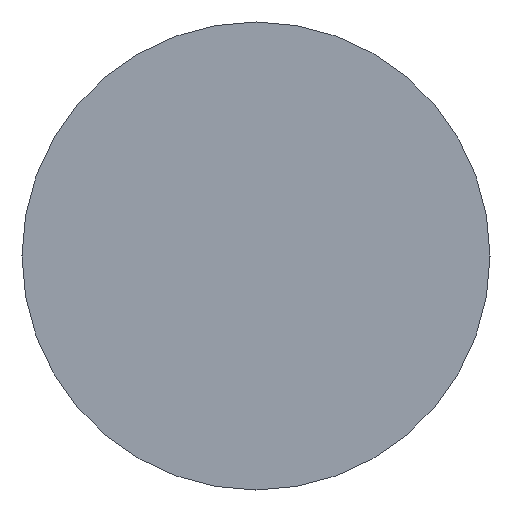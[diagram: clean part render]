
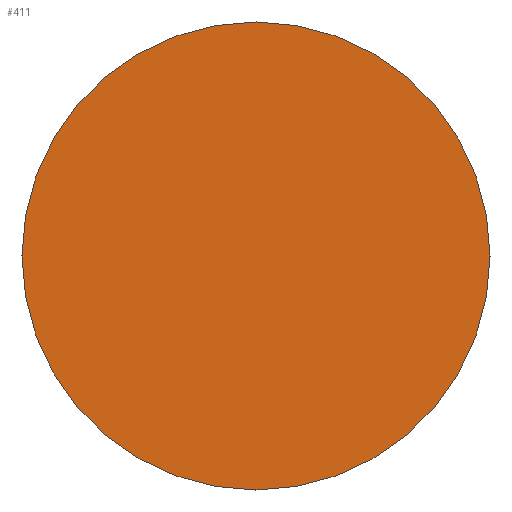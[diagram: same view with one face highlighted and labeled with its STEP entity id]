
A CAD part, left-side view. The second image highlights one B-rep face of the part: STEP entity #411.
In plain terms, the highlighted planar face has unit normal (-1, 0, 0).
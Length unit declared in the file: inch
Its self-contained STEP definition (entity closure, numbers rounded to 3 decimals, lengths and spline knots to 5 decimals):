
#15 = DIRECTION ( 'NONE',  ( -1., 0., 0. ) ) ;
#37 = ORIENTED_EDGE ( 'NONE', *, *, #432, .T. ) ;
#83 = CIRCLE ( 'NONE', #283, 0.21875 ) ;
#101 = CARTESIAN_POINT ( 'NONE',  ( -2.5, 0., 0. ) ) ;
#111 = ORIENTED_EDGE ( 'NONE', *, *, #240, .T. ) ;
#156 = CARTESIAN_POINT ( 'NONE',  ( -2.5, 0.21875, 0. ) ) ;
#177 = EDGE_LOOP ( 'NONE', ( #37, #111 ) ) ;
#180 = AXIS2_PLACEMENT_3D ( 'NONE', #156, #237, #280 ) ;
#219 = VERTEX_POINT ( 'NONE', #297 ) ;
#237 = DIRECTION ( 'NONE',  ( 1., 0., 0. ) ) ;
#240 = EDGE_CURVE ( 'NONE', #219, #410, #83, .T. ) ;
#241 = PLANE ( 'NONE',  #180 ) ;
#249 = AXIS2_PLACEMENT_3D ( 'NONE', #101, #422, #383 ) ;
#264 = DIRECTION ( 'NONE',  ( 0., 0., 1. ) ) ;
#280 = DIRECTION ( 'NONE',  ( 0., 0., -1. ) ) ;
#283 = AXIS2_PLACEMENT_3D ( 'NONE', #445, #15, #264 ) ;
#297 = CARTESIAN_POINT ( 'NONE',  ( -2.5, 0., -0.21875 ) ) ;
#317 = FACE_OUTER_BOUND ( 'NONE', #177, .T. ) ;
#353 = CARTESIAN_POINT ( 'NONE',  ( -2.5, 0., 0.21875 ) ) ;
#383 = DIRECTION ( 'NONE',  ( 0., 0., 1. ) ) ;
#410 = VERTEX_POINT ( 'NONE', #353 ) ;
#411 = ADVANCED_FACE ( 'NONE', ( #317 ), #241, .F. ) ;
#422 = DIRECTION ( 'NONE',  ( -1., 0., 0. ) ) ;
#432 = EDGE_CURVE ( 'NONE', #410, #219, #457, .T. ) ;
#445 = CARTESIAN_POINT ( 'NONE',  ( -2.5, 0., 0. ) ) ;
#457 = CIRCLE ( 'NONE', #249, 0.21875 ) ;
